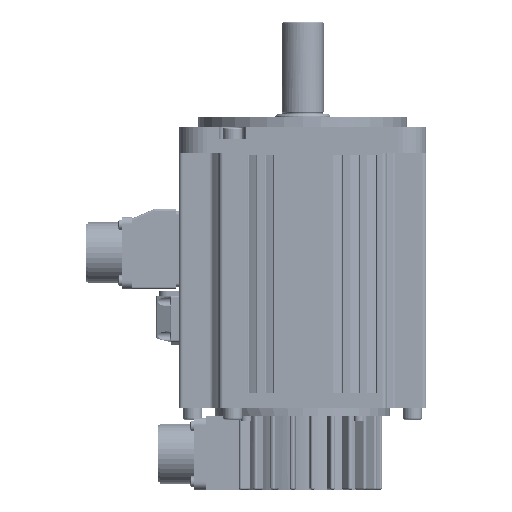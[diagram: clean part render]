
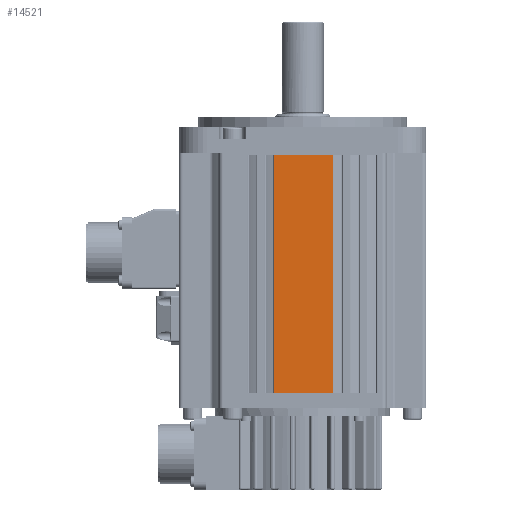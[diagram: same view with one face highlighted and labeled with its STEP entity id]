
A CAD part, front view. The second image highlights one B-rep face of the part: STEP entity #14521.
In plain terms, the highlighted planar face has unit normal (0, -1, 0) as drawn and (0, 0, -1) by its records, which use the part's own axes.
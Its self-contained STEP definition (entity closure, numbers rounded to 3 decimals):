
#9129=DIRECTION('',(-1.,0.,0.));
#9130=VECTOR('',#9129,30.8);
#9131=CARTESIAN_POINT('',(15.9,0.,-65.));
#9132=LINE('',#9131,#9130);
#9484=DIRECTION('',(-1.,0.,0.));
#9485=VECTOR('',#9484,30.8);
#9486=CARTESIAN_POINT('',(15.9,125.,-65.));
#9487=LINE('',#9486,#9485);
#10578=DIRECTION('',(0.,-1.,0.));
#10579=VECTOR('',#10578,125.);
#10580=CARTESIAN_POINT('',(15.9,125.,-65.));
#10581=LINE('',#10580,#10579);
#10582=DIRECTION('',(0.,1.,0.));
#10583=VECTOR('',#10582,125.);
#10584=CARTESIAN_POINT('',(-14.9,0.,-65.));
#10585=LINE('',#10584,#10583);
#11842=CARTESIAN_POINT('',(15.9,0.,-65.));
#11844=VERTEX_POINT('',#11842);
#11848=CARTESIAN_POINT('',(15.9,125.,-65.));
#11849=VERTEX_POINT('',#11848);
#11850=CARTESIAN_POINT('',(-14.9,125.,-65.));
#11852=VERTEX_POINT('',#11850);
#11856=CARTESIAN_POINT('',(-14.9,0.,-65.));
#11857=VERTEX_POINT('',#11856);
#14508=CARTESIAN_POINT('',(43.9,0.,-65.));
#14509=DIRECTION('',(0.,0.,-1.));
#14510=DIRECTION('',(-1.,0.,0.));
#14511=AXIS2_PLACEMENT_3D('',#14508,#14509,#14510);
#14512=PLANE('',#14511);
#14514=ORIENTED_EDGE('',*,*,#14513,.F.);
#14515=ORIENTED_EDGE('',*,*,#13094,.T.);
#14517=ORIENTED_EDGE('',*,*,#14516,.F.);
#14518=ORIENTED_EDGE('',*,*,#12832,.F.);
#14519=EDGE_LOOP('',(#14514,#14515,#14517,#14518));
#14520=FACE_OUTER_BOUND('',#14519,.F.);
#14521=ADVANCED_FACE('',(#14520),#14512,.T.);
#12832=EDGE_CURVE('',#11844,#11857,#9132,.T.);
#13094=EDGE_CURVE('',#11849,#11852,#9487,.T.);
#14513=EDGE_CURVE('',#11849,#11844,#10581,.T.);
#14516=EDGE_CURVE('',#11857,#11852,#10585,.T.);
